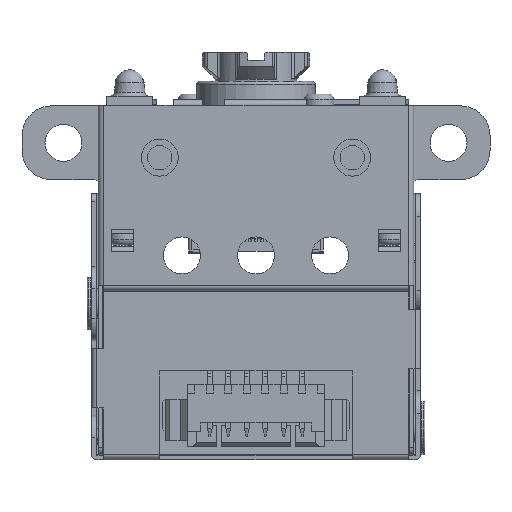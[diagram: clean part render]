
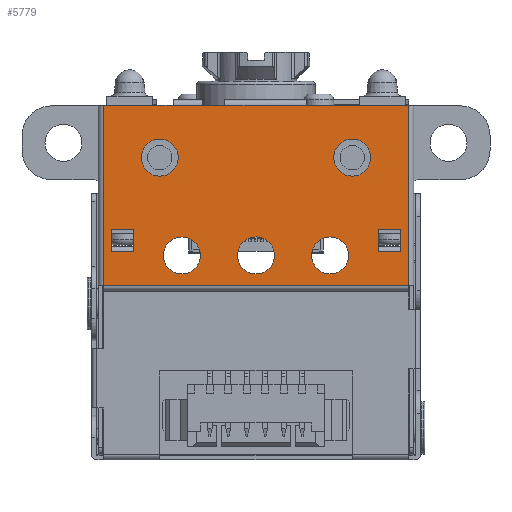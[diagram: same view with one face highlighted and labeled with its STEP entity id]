
A CAD part, front view. The second image highlights one B-rep face of the part: STEP entity #5779.
In plain terms, the highlighted planar face has unit normal (0, -1, 0).
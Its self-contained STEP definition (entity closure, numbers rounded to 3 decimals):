
#5779=ADVANCED_FACE('',(#9692,#9693,#9694,#9695,#9696,#9697,#9698,#9699),
#8298,.F.);
#8298=PLANE('',#61227);
#9121=CIRCLE('',#60926,1.25);
#9123=CIRCLE('',#60929,1.25);
#9125=CIRCLE('',#60932,1.25);
#9217=CIRCLE('',#61168,1.25);
#9219=CIRCLE('',#61171,1.25);
#9692=FACE_BOUND('',#12530,.T.);
#9693=FACE_BOUND('',#12531,.T.);
#9694=FACE_BOUND('',#12532,.T.);
#9695=FACE_BOUND('',#12533,.T.);
#9696=FACE_BOUND('',#12534,.T.);
#9697=FACE_BOUND('',#12535,.T.);
#9698=FACE_BOUND('',#12536,.T.);
#9699=FACE_BOUND('',#12537,.T.);
#12530=EDGE_LOOP('',(#27369));
#12531=EDGE_LOOP('',(#27370));
#12532=EDGE_LOOP('',(#27371));
#12533=EDGE_LOOP('',(#27372,#27373,#27374,#27375));
#12534=EDGE_LOOP('',(#27376,#27377,#27378,#27379));
#12535=EDGE_LOOP('',(#27380));
#12536=EDGE_LOOP('',(#27381));
#12537=EDGE_LOOP('',(#27382,#27383,#27384,#27385,#27386,#27387,#27388,#27389));
#27369=ORIENTED_EDGE('',*,*,#41701,.T.);
#27370=ORIENTED_EDGE('',*,*,#41703,.T.);
#27371=ORIENTED_EDGE('',*,*,#41705,.T.);
#27372=ORIENTED_EDGE('',*,*,#41916,.F.);
#27373=ORIENTED_EDGE('',*,*,#41914,.F.);
#27374=ORIENTED_EDGE('',*,*,#41917,.T.);
#27375=ORIENTED_EDGE('',*,*,#41909,.T.);
#27376=ORIENTED_EDGE('',*,*,#41927,.F.);
#27377=ORIENTED_EDGE('',*,*,#41925,.F.);
#27378=ORIENTED_EDGE('',*,*,#41928,.T.);
#27379=ORIENTED_EDGE('',*,*,#41920,.T.);
#27380=ORIENTED_EDGE('',*,*,#42093,.T.);
#27381=ORIENTED_EDGE('',*,*,#42095,.T.);
#27382=ORIENTED_EDGE('',*,*,#42138,.T.);
#27383=ORIENTED_EDGE('',*,*,#42193,.F.);
#27384=ORIENTED_EDGE('',*,*,#42163,.F.);
#27385=ORIENTED_EDGE('',*,*,#42171,.T.);
#27386=ORIENTED_EDGE('',*,*,#41699,.T.);
#27387=ORIENTED_EDGE('',*,*,#41688,.F.);
#27388=ORIENTED_EDGE('',*,*,#42194,.T.);
#27389=ORIENTED_EDGE('',*,*,#42142,.F.);
#33933=VERTEX_POINT('',#90272);
#33935=VERTEX_POINT('',#90278);
#33938=VERTEX_POINT('',#90286);
#33942=VERTEX_POINT('',#90299);
#33944=VERTEX_POINT('',#90316);
#33946=VERTEX_POINT('',#90321);
#33948=VERTEX_POINT('',#90326);
#34077=VERTEX_POINT('',#90767);
#34078=VERTEX_POINT('',#90769);
#34081=VERTEX_POINT('',#90777);
#34082=VERTEX_POINT('',#90779);
#34083=VERTEX_POINT('',#90788);
#34084=VERTEX_POINT('',#90790);
#34087=VERTEX_POINT('',#90798);
#34088=VERTEX_POINT('',#90800);
#34210=VERTEX_POINT('',#91144);
#34212=VERTEX_POINT('',#91149);
#34242=VERTEX_POINT('',#91236);
#34243=VERTEX_POINT('',#91237);
#34259=VERTEX_POINT('',#91285);
#34260=VERTEX_POINT('',#91286);
#41688=EDGE_CURVE('',#33933,#33935,#49362,.T.);
#41699=EDGE_CURVE('',#33938,#33935,#49371,.T.);
#41701=EDGE_CURVE('',#33944,#33944,#9121,.T.);
#41703=EDGE_CURVE('',#33946,#33946,#9123,.T.);
#41705=EDGE_CURVE('',#33948,#33948,#9125,.T.);
#41909=EDGE_CURVE('',#34078,#34077,#49526,.T.);
#41914=EDGE_CURVE('',#34081,#34082,#49531,.T.);
#41916=EDGE_CURVE('',#34082,#34077,#49532,.T.);
#41917=EDGE_CURVE('',#34081,#34078,#49533,.T.);
#41920=EDGE_CURVE('',#34084,#34083,#49535,.T.);
#41925=EDGE_CURVE('',#34087,#34088,#49540,.T.);
#41927=EDGE_CURVE('',#34088,#34083,#49541,.T.);
#41928=EDGE_CURVE('',#34087,#34084,#49542,.T.);
#42093=EDGE_CURVE('',#34210,#34210,#9217,.T.);
#42095=EDGE_CURVE('',#34212,#34212,#9219,.T.);
#42138=EDGE_CURVE('',#34242,#34243,#49692,.T.);
#42142=EDGE_CURVE('',#34242,#33942,#49694,.T.);
#42163=EDGE_CURVE('',#34259,#34260,#49709,.T.);
#42171=EDGE_CURVE('',#34259,#33938,#49715,.T.);
#42193=EDGE_CURVE('',#34260,#34243,#49732,.T.);
#42194=EDGE_CURVE('',#33933,#33942,#49733,.T.);
#49362=LINE('',#90290,#56846);
#49371=LINE('',#90311,#56855);
#49526=LINE('',#90768,#57010);
#49531=LINE('',#90778,#57015);
#49532=LINE('',#90782,#57016);
#49533=LINE('',#90784,#57017);
#49535=LINE('',#90789,#57019);
#49540=LINE('',#90799,#57024);
#49541=LINE('',#90803,#57025);
#49542=LINE('',#90805,#57026);
#49692=LINE('',#91235,#57176);
#49694=LINE('',#91242,#57178);
#49709=LINE('',#91284,#57193);
#49715=LINE('',#91297,#57199);
#49732=LINE('',#91335,#57216);
#49733=LINE('',#91337,#57217);
#56846=VECTOR('',#73561,1.);
#56855=VECTOR('',#73586,1.);
#57010=VECTOR('',#74011,1.);
#57015=VECTOR('',#74018,1.);
#57016=VECTOR('',#74023,1.);
#57017=VECTOR('',#74026,1.);
#57019=VECTOR('',#74032,1.);
#57024=VECTOR('',#74039,1.);
#57025=VECTOR('',#74044,1.);
#57026=VECTOR('',#74047,1.);
#57176=VECTOR('',#74451,1.);
#57178=VECTOR('',#74459,1.);
#57193=VECTOR('',#74498,1.);
#57199=VECTOR('',#74512,1.);
#57216=VECTOR('',#74551,1.);
#57217=VECTOR('',#74554,1.);
#60926=AXIS2_PLACEMENT_3D('',#90315,#73591,#73592);
#60929=AXIS2_PLACEMENT_3D('',#90320,#73597,#73598);
#60932=AXIS2_PLACEMENT_3D('',#90325,#73603,#73604);
#61168=AXIS2_PLACEMENT_3D('',#91143,#74363,#74364);
#61171=AXIS2_PLACEMENT_3D('',#91148,#74369,#74370);
#61227=AXIS2_PLACEMENT_3D('',#91338,#74555,#74556);
#73561=DIRECTION('',(1.,0.,0.));
#73586=DIRECTION('',(-1.,0.,0.));
#73591=DIRECTION('',(0.,1.,0.));
#73592=DIRECTION('',(0.,0.,1.));
#73597=DIRECTION('',(0.,1.,0.));
#73598=DIRECTION('',(0.,0.,1.));
#73603=DIRECTION('',(0.,1.,0.));
#73604=DIRECTION('',(0.,0.,1.));
#74011=DIRECTION('',(0.,0.,-1.));
#74018=DIRECTION('',(0.,0.,-1.));
#74023=DIRECTION('',(1.,0.,0.));
#74026=DIRECTION('',(1.,0.,0.));
#74032=DIRECTION('',(0.,0.,-1.));
#74039=DIRECTION('',(0.,0.,-1.));
#74044=DIRECTION('',(1.,0.,0.));
#74047=DIRECTION('',(1.,0.,0.));
#74363=DIRECTION('',(0.,1.,0.));
#74364=DIRECTION('',(0.,0.,1.));
#74369=DIRECTION('',(0.,1.,0.));
#74370=DIRECTION('',(0.,0.,1.));
#74451=DIRECTION('',(0.,0.,-1.));
#74459=DIRECTION('',(1.,0.,0.));
#74498=DIRECTION('',(0.,0.,-1.));
#74512=DIRECTION('',(-1.,0.,0.));
#74551=DIRECTION('',(-1.,0.,0.));
#74554=DIRECTION('',(-1.,0.,0.));
#74555=DIRECTION('',(0.,1.,0.));
#74556=DIRECTION('',(0.,0.,-1.));
#90272=CARTESIAN_POINT('',(-3.6,-6.35,7.85));
#90278=CARTESIAN_POINT('',(-2.1,-6.35,7.85));
#90286=CARTESIAN_POINT('',(3.4,-6.35,7.85));
#90290=CARTESIAN_POINT('',(-3.6,-6.35,7.85));
#90299=CARTESIAN_POINT('',(-5.6,-6.35,7.85));
#90311=CARTESIAN_POINT('',(10.3,-6.35,7.85));
#90315=CARTESIAN_POINT('',(5.,-6.35,-2.3));
#90316=CARTESIAN_POINT('',(5.,-6.35,-1.05));
#90320=CARTESIAN_POINT('',(-5.,-6.35,-2.3));
#90321=CARTESIAN_POINT('',(-5.,-6.35,-1.05));
#90325=CARTESIAN_POINT('',(0.,-6.35,-2.3));
#90326=CARTESIAN_POINT('',(0.,-6.35,-1.05));
#90767=CARTESIAN_POINT('',(9.75,-6.35,-2.05));
#90768=CARTESIAN_POINT('',(9.75,-6.35,-2.05));
#90769=CARTESIAN_POINT('',(9.75,-6.35,-0.554));
#90777=CARTESIAN_POINT('',(8.25,-6.35,-0.554));
#90778=CARTESIAN_POINT('',(8.25,-6.35,-2.05));
#90779=CARTESIAN_POINT('',(8.25,-6.35,-2.05));
#90782=CARTESIAN_POINT('',(8.25,-6.35,-2.05));
#90784=CARTESIAN_POINT('',(8.25,-6.35,-0.554));
#90788=CARTESIAN_POINT('',(-8.25,-6.35,-2.05));
#90789=CARTESIAN_POINT('',(-8.25,-6.35,-2.05));
#90790=CARTESIAN_POINT('',(-8.25,-6.35,-0.554));
#90798=CARTESIAN_POINT('',(-9.75,-6.35,-0.554));
#90799=CARTESIAN_POINT('',(-9.75,-6.35,-2.05));
#90800=CARTESIAN_POINT('',(-9.75,-6.35,-2.05));
#90803=CARTESIAN_POINT('',(-9.75,-6.35,-2.05));
#90805=CARTESIAN_POINT('',(-9.75,-6.35,-0.554));
#91143=CARTESIAN_POINT('',(6.5,-6.35,4.305));
#91144=CARTESIAN_POINT('',(6.5,-6.35,5.555));
#91148=CARTESIAN_POINT('',(-6.5,-6.35,4.305));
#91149=CARTESIAN_POINT('',(-6.5,-6.35,5.555));
#91235=CARTESIAN_POINT('',(-10.3,-6.35,7.85));
#91236=CARTESIAN_POINT('',(-10.3,-6.35,7.85));
#91237=CARTESIAN_POINT('',(-10.3,-6.35,-4.35));
#91242=CARTESIAN_POINT('',(-10.3,-6.35,7.85));
#91284=CARTESIAN_POINT('',(10.3,-6.35,7.85));
#91285=CARTESIAN_POINT('',(10.3,-6.35,7.85));
#91286=CARTESIAN_POINT('',(10.3,-6.35,-4.35));
#91297=CARTESIAN_POINT('',(10.3,-6.35,7.85));
#91335=CARTESIAN_POINT('',(10.3,-6.35,-4.35));
#91337=CARTESIAN_POINT('',(10.3,-6.35,7.85));
#91338=CARTESIAN_POINT('',(10.3,-6.35,7.85));
